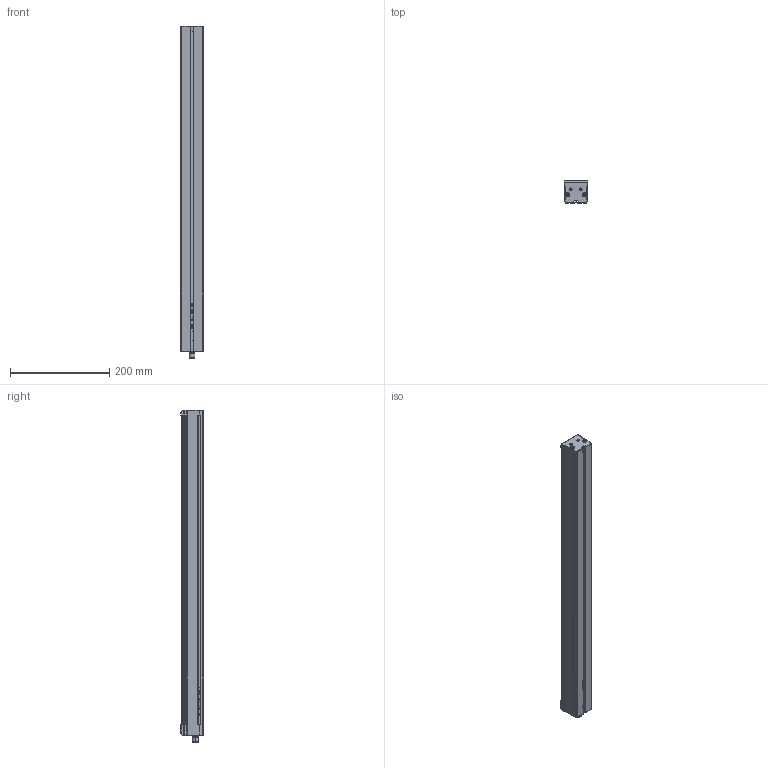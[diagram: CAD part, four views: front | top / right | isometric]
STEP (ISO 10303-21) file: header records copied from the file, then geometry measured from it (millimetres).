
FILE_DESCRIPTION (( 'STEP AP214' ), '1' );
FILE_NAME ('EBAR-HPS-625-xxx-UN_CLIENT.STEP', '2025-11-18T11:57:52', ( '' ), ( '' ), 'SwSTEP 2.0', 'SolidWorks 2025', '' );
FILE_SCHEMA (( 'AUTOMOTIVE_DESIGN' ));
Length unit declared in the file: millimetre
Products named in the file (3): EBAR-HPS-xxx-xxx-xx_CLIENT_625; M4 T-Slot Nut; EBAR-HPS-625-xxx-UN_CLIENT
Assembly tree (13 placements, depth 2):
  EBAR-HPS-625-xxx-UN_CLIENT
    EBAR-HPS-xxx-xxx-xx_CLIENT_625
    M4 T-Slot Nut  x12
Bounding box: 47.63 x 45 x 670.06 mm (x, y, z)
Volume: 1121767.9 mm3; surface area: 163062.8 mm2
Topology: 13 solids, 13 shells, 986 faces, 2564 edges, 1670 vertices
Faces by surface type: plane 484, cylinder 270, bspline 140, torus 62, sphere 16, cone 14
Entity records: 29235 total; most frequent: CARTESIAN_POINT 10271, ORIENTED_EDGE 4098, DIRECTION 3554, EDGE_CURVE 2049, VERTEX_POINT 1329, AXIS2_PLACEMENT_3D 1216, LINE 1122, VECTOR 1122
